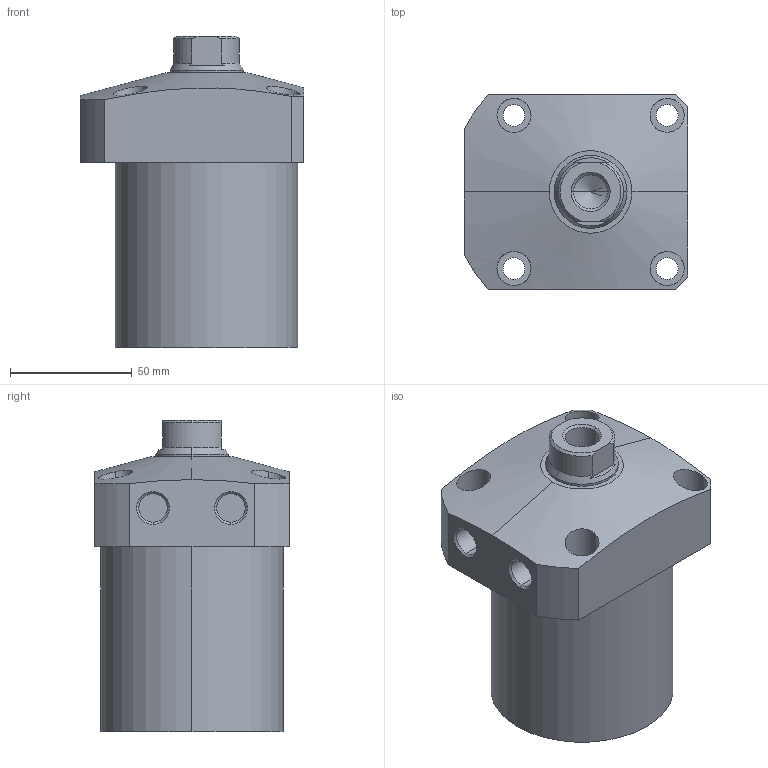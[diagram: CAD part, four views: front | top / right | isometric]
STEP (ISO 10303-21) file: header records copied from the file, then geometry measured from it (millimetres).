
FILE_DESCRIPTION (( 'STEP AP203' ), '1' );
FILE_NAME ('CLL-075CA-065.STEP', '2019-12-20T05:55:32', ( '' ), ( '' ), 'SwSTEP 2.0', 'SolidWorks 2015', '' );
FILE_SCHEMA (( 'CONFIG_CONTROL_DESIGN' ));
Length unit declared in the file: millimetre
Products named in the file (1): CLL-075CA-065
Bounding box: 92 x 80 x 128 mm (x, y, z)
Volume: 558455.9 mm3; surface area: 49182.9 mm2
Topology: 1 solids, 1 shells, 72 faces, 169 edges, 108 vertices
Faces by surface type: cylinder 35, plane 22, cone 15
Entity records: 2557 total; most frequent: CARTESIAN_POINT 792, DIRECTION 366, ORIENTED_EDGE 334, EDGE_CURVE 167, AXIS2_PLACEMENT_3D 150, VERTEX_POINT 108, EDGE_LOOP 91, CIRCLE 77
